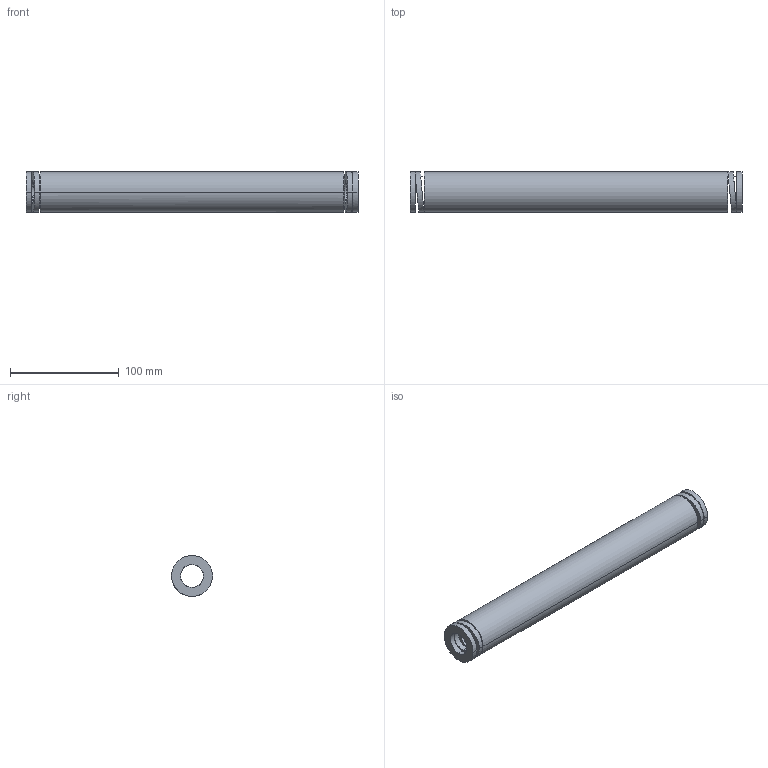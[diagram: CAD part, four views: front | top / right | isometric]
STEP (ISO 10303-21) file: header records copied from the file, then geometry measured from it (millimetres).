
FILE_DESCRIPTION(('CATIA V5 STEP Exchange'),'2;1');
FILE_NAME('C:\Users\Utente\Desktop\IO LAVORO\3D X SITO CF\X SITO\3D files 392B\392-B40-305.stp','2021-08-13T11:21:47+00:00',('none'),('none'),'CATIA Version 5 Release 20 GA (IN-10)','CATIA V5 STEP AP203','none');
FILE_SCHEMA(('CONFIG_CONTROL_DESIGN'));
Length unit declared in the file: millimetre
Products named in the file (1): 392-B40-305
Bounding box: 305 x 37.77 x 37.5 mm (x, y, z)
Volume: 224899.7 mm3; surface area: 62405.8 mm2
Topology: 1 solids, 1 shells, 38 faces, 92 edges, 64 vertices
Faces by surface type: cylinder 28, plane 10
Entity records: 1626 total; most frequent: CARTESIAN_POINT 747, ORIENTED_EDGE 184, DIRECTION 124, EDGE_CURVE 92, VERTEX_POINT 64, AXIS2_PLACEMENT_3D 59, EDGE_LOOP 56, B_SPLINE_CURVE_WITH_KNOTS 44
